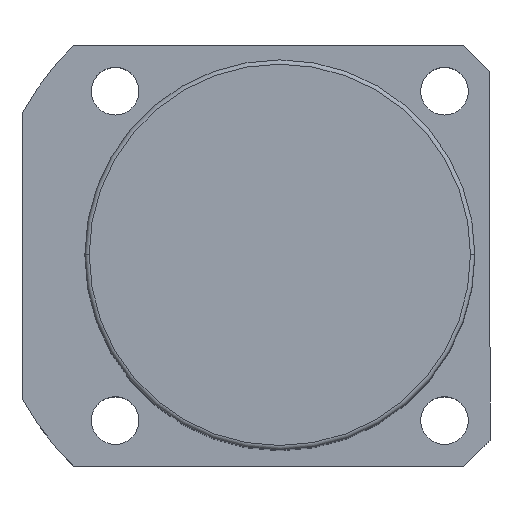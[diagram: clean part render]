
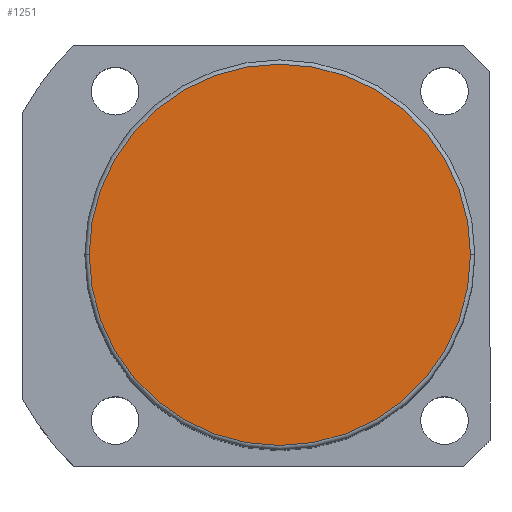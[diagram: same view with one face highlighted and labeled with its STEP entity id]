
A CAD part, top view. The second image highlights one B-rep face of the part: STEP entity #1251.
In plain terms, the highlighted planar face has unit normal (0, 0, 1).
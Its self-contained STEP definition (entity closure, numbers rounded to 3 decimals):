
#152 = DIRECTION ( 'NONE',  ( 1., 0., 0. ) ) ;
#228 = CARTESIAN_POINT ( 'NONE',  ( -44., 0., 151.5 ) ) ;
#312 = EDGE_LOOP ( 'NONE', ( #482, #665 ) ) ;
#322 = AXIS2_PLACEMENT_3D ( 'NONE', #1353, #1818, #152 ) ;
#416 = CARTESIAN_POINT ( 'NONE',  ( 0., 0., 151.5 ) ) ;
#473 = AXIS2_PLACEMENT_3D ( 'NONE', #416, #845, #1625 ) ;
#482 = ORIENTED_EDGE ( 'NONE', *, *, #814, .T. ) ;
#504 = AXIS2_PLACEMENT_3D ( 'NONE', #546, #1275, #535 ) ;
#535 = DIRECTION ( 'NONE',  ( 1., 0., 0. ) ) ;
#546 = CARTESIAN_POINT ( 'NONE',  ( 0., 0., 151.5 ) ) ;
#599 = VERTEX_POINT ( 'NONE', #228 ) ;
#665 = ORIENTED_EDGE ( 'NONE', *, *, #1538, .T. ) ;
#814 = EDGE_CURVE ( 'NONE', #975, #599, #1479, .T. ) ;
#845 = DIRECTION ( 'NONE',  ( 0., 0., 1. ) ) ;
#975 = VERTEX_POINT ( 'NONE', #1967 ) ;
#1068 = CIRCLE ( 'NONE', #322, 44. ) ;
#1251 = ADVANCED_FACE ( 'NONE', ( #1620 ), #1293, .T. ) ;
#1275 = DIRECTION ( 'NONE',  ( 0., 0., 1. ) ) ;
#1293 = PLANE ( 'NONE',  #504 ) ;
#1353 = CARTESIAN_POINT ( 'NONE',  ( 0., 0., 151.5 ) ) ;
#1479 = CIRCLE ( 'NONE', #473, 44. ) ;
#1538 = EDGE_CURVE ( 'NONE', #599, #975, #1068, .T. ) ;
#1620 = FACE_OUTER_BOUND ( 'NONE', #312, .T. ) ;
#1625 = DIRECTION ( 'NONE',  ( 1., 0., 0. ) ) ;
#1818 = DIRECTION ( 'NONE',  ( 0., 0., 1. ) ) ;
#1967 = CARTESIAN_POINT ( 'NONE',  ( 44., 0., 151.5 ) ) ;
